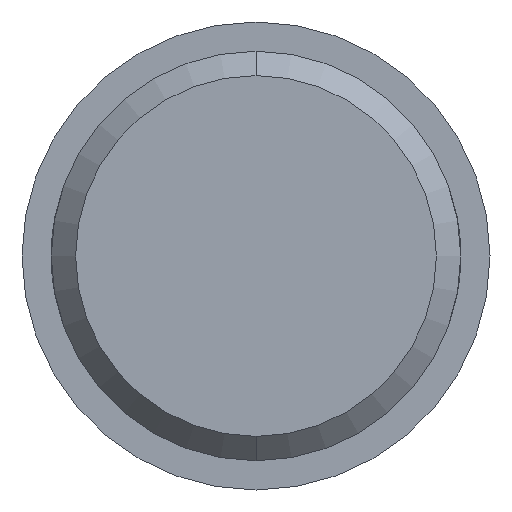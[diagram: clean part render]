
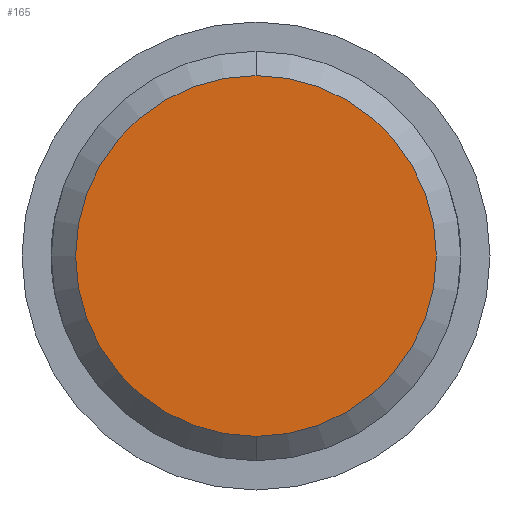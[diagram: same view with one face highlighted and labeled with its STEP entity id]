
A CAD part, front view. The second image highlights one B-rep face of the part: STEP entity #165.
In plain terms, the highlighted planar face has unit normal (0, -1, 0).
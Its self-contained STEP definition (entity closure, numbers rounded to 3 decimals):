
#3 = DIRECTION ( 'NONE',  ( 0., 0., -1. ) ) ;
#11 = CIRCLE ( 'NONE', #318, 18.5 ) ;
#24 = CARTESIAN_POINT ( 'NONE',  ( 0., -100., 0. ) ) ;
#70 = CARTESIAN_POINT ( 'NONE',  ( 0., -100., -18.5 ) ) ;
#81 = AXIS2_PLACEMENT_3D ( 'NONE', #420, #260, #3 ) ;
#87 = FACE_OUTER_BOUND ( 'NONE', #519, .T. ) ;
#104 = CARTESIAN_POINT ( 'NONE',  ( 0., -100., 0. ) ) ;
#125 = CARTESIAN_POINT ( 'NONE',  ( 0., -100., 18.5 ) ) ;
#165 = ADVANCED_FACE ( 'NONE', ( #87 ), #463, .T. ) ;
#194 = DIRECTION ( 'NONE',  ( 0., 0., -1. ) ) ;
#199 = CIRCLE ( 'NONE', #471, 18.5 ) ;
#234 = DIRECTION ( 'NONE',  ( 0., 0., -1. ) ) ;
#260 = DIRECTION ( 'NONE',  ( 0., -1., 0. ) ) ;
#270 = VERTEX_POINT ( 'NONE', #125 ) ;
#318 = AXIS2_PLACEMENT_3D ( 'NONE', #24, #328, #234 ) ;
#328 = DIRECTION ( 'NONE',  ( 0., -1., 0. ) ) ;
#371 = EDGE_CURVE ( 'NONE', #270, #515, #11, .T. ) ;
#386 = EDGE_CURVE ( 'NONE', #515, #270, #199, .T. ) ;
#420 = CARTESIAN_POINT ( 'NONE',  ( 0., -100., 0. ) ) ;
#433 = ORIENTED_EDGE ( 'NONE', *, *, #371, .T. ) ;
#438 = ORIENTED_EDGE ( 'NONE', *, *, #386, .T. ) ;
#448 = DIRECTION ( 'NONE',  ( 0., -1., 0. ) ) ;
#463 = PLANE ( 'NONE',  #81 ) ;
#471 = AXIS2_PLACEMENT_3D ( 'NONE', #104, #448, #194 ) ;
#515 = VERTEX_POINT ( 'NONE', #70 ) ;
#519 = EDGE_LOOP ( 'NONE', ( #433, #438 ) ) ;
